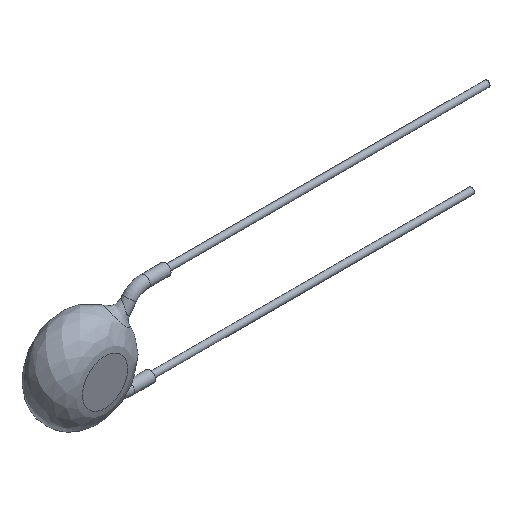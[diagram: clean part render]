
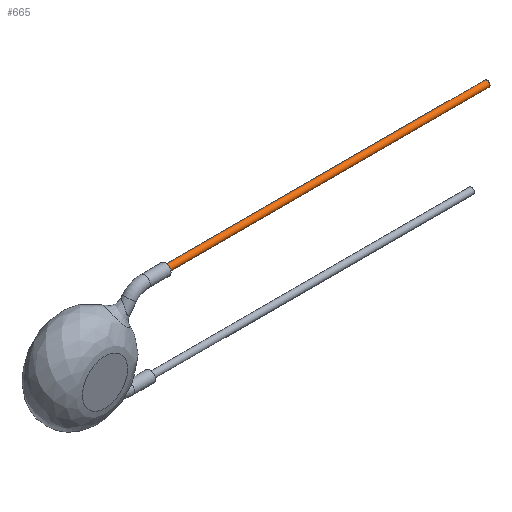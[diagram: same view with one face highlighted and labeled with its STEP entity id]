
A CAD part, isometric view. The second image highlights one B-rep face of the part: STEP entity #665.
In plain terms, the highlighted cylindrical face has radius 0.3 mm (diameter 0.6 mm), a full revolution.
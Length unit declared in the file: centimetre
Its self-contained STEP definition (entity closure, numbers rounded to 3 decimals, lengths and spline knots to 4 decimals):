
#616=CARTESIAN_POINT('',(0.775,-0.03,0.47));
#617=VERTEX_POINT('',#616);
#618=CARTESIAN_POINT('',(0.775,-0.03,0.5));
#619=DIRECTION('',(1.0,0.0,0.0));
#620=DIRECTION('',(0.0,1.0,0.0));
#621=AXIS2_PLACEMENT_3D('',#618,#619,#620);
#622=CIRCLE('',#621,0.03);
#623=EDGE_CURVE('',#617,#617,#622,.T.);
#646=CARTESIAN_POINT('',(3.975,-0.03,0.5));
#647=DIRECTION('',(-1.0,0.,0.));
#648=DIRECTION('',(0.0,1.0,0.0));
#649=AXIS2_PLACEMENT_3D('',#646,#647,#648);
#650=CYLINDRICAL_SURFACE('',#649,0.03);
#651=ORIENTED_EDGE('',*,*,#623,.T.);
#652=EDGE_LOOP('',(#651));
#653=FACE_OUTER_BOUND('',#652,.T.);
#654=CARTESIAN_POINT('',(3.975,-0.06,0.5));
#655=VERTEX_POINT('',#654);
#656=CARTESIAN_POINT('',(3.975,-0.03,0.5));
#657=DIRECTION('',(1.0,0.0,0.0));
#658=DIRECTION('',(0.0,1.0,0.0));
#659=AXIS2_PLACEMENT_3D('',#656,#657,#658);
#660=CIRCLE('',#659,0.03);
#661=EDGE_CURVE('',#655,#655,#660,.T.);
#662=ORIENTED_EDGE('',*,*,#661,.F.);
#663=EDGE_LOOP('',(#662));
#664=FACE_BOUND('',#663,.T.);
#665=ADVANCED_FACE('',(#653,#664),#650,.T.);
